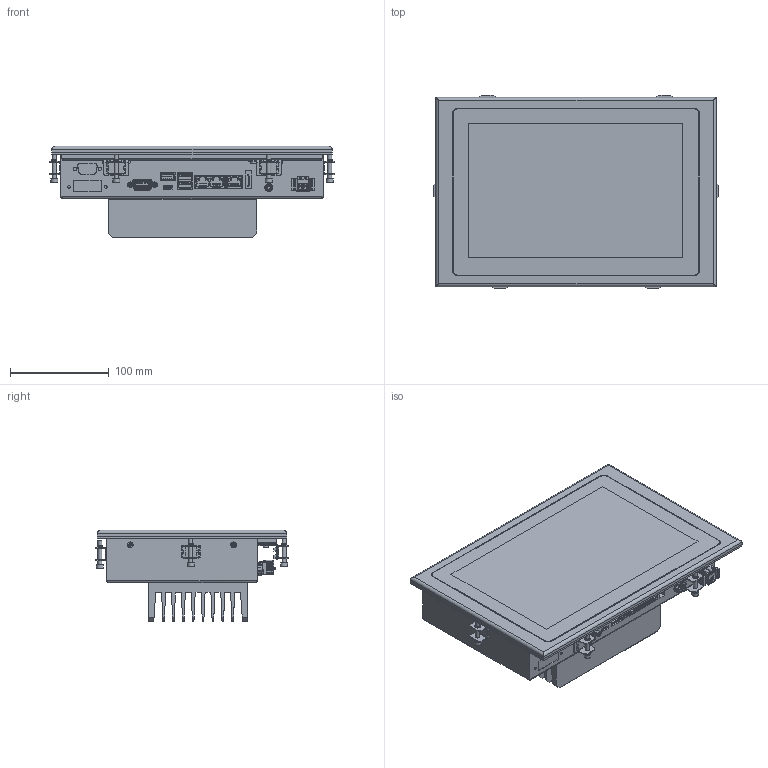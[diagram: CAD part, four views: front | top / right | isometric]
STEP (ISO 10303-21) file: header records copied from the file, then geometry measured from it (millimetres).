
FILE_DESCRIPTION(/* description */ (''),/* implementation_level */ '2;1');
FILE_NAME(/* name */ 'C:\SAPInventorWork\778-11992-00_IPT_000.stp',/* time_stamp */ '2024-08-14T13:31:00+02:00',/* author */ ('Aiple'),/* organization */ (''),/* preprocessor_version */ 'ST-DEVELOPER v18.1',/* originating_system */ 'Autodesk Inventor 2021',/* authorisation */ '');
FILE_SCHEMA (('AUTOMOTIVE_DESIGN { 1 0 10303 214 3 1 1 }'));
Products named in the file (1): 778-11992-00
Bounding box: 289.1 x 196.6 x 93.2 mm (x, y, z)
Volume: 2602996.9 mm3; surface area: 357072.7 mm2
Topology: 1 solids, 64 shells, 7461 faces, 21103 edges, 13617 vertices
Faces by surface type: plane 5143, cylinder 1824, cone 221, bspline 174, torus 78, sphere 21
Full cylindrical faces by diameter (mm): 0.457 x1, 0.5 x3, 0.6 x3, 2.156 x2, 2.459 x8, 2.5 x2, 2.794 x2, 2.8 x6, 3 x3, 3.2 x2, 3.5 x18, 3.8 x2, 3.91 x1, 4 x25, 4.01 x1, 4.1 x6, 4.3 x2, 4.7 x14, 5 x6, 5.5 x2, 5.54 x8, 7 x6
Entity records: 260776 total; most frequent: CARTESIAN_POINT 58653, ORIENTED_EDGE 42148, DIRECTION 38379, EDGE_CURVE 21074, LINE 15895, VECTOR 15895, VERTEX_POINT 13617, AXIS2_PLACEMENT_3D 11242
